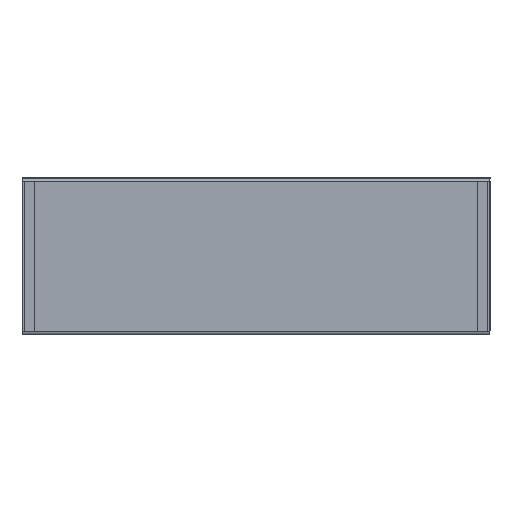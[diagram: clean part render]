
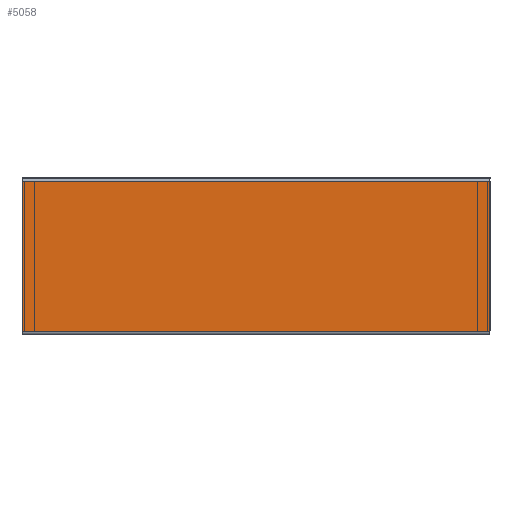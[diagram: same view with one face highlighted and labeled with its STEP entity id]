
A CAD part, left-side view. The second image highlights one B-rep face of the part: STEP entity #5058.
In plain terms, the highlighted planar face has unit normal (-1, 0, 0).
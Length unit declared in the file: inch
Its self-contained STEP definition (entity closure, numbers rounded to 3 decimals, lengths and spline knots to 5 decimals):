
#171 = CARTESIAN_POINT ( 'NONE',  ( -15., 15., 0.177 ) ) ;
#187 = DIRECTION ( 'NONE',  ( 0., 0., 1. ) ) ;
#188 = VECTOR ( 'NONE', #187, 39.37008 ) ;
#189 = CARTESIAN_POINT ( 'NONE',  ( -15., -15., 0. ) ) ;
#190 = LINE ( 'NONE', #189, #188 ) ;
#205 = CARTESIAN_POINT ( 'NONE',  ( -15., -15., 0.177 ) ) ;
#1306 = CARTESIAN_POINT ( 'NONE',  ( -15., -15., 9.823 ) ) ;
#1374 = DIRECTION ( 'NONE',  ( 0., 0., 1. ) ) ;
#1375 = VECTOR ( 'NONE', #1374, 39.37008 ) ;
#1376 = CARTESIAN_POINT ( 'NONE',  ( -15., 15., 0. ) ) ;
#1377 = LINE ( 'NONE', #1376, #1375 ) ;
#1590 = CARTESIAN_POINT ( 'NONE',  ( -15., 15., 9.823 ) ) ;
#3228 = CARTESIAN_POINT ( 'NONE',  ( -15., 15., 0.177 ) ) ;
#3229 = LINE ( 'NONE', #3228, #3347 ) ;
#3258 = DIRECTION ( 'NONE',  ( 0., -1., 0. ) ) ;
#3259 = VECTOR ( 'NONE', #3258, 39.37008 ) ;
#3260 = CARTESIAN_POINT ( 'NONE',  ( -15., 15., 9.823 ) ) ;
#3263 = LINE ( 'NONE', #3260, #3259 ) ;
#3333 = DIRECTION ( 'NONE',  ( 0., 0., -1. ) ) ;
#3335 = DIRECTION ( 'NONE',  ( 1., 0., 0. ) ) ;
#3336 = CARTESIAN_POINT ( 'NONE',  ( -15., 15., 0. ) ) ;
#3341 = AXIS2_PLACEMENT_3D ( 'NONE', #3336, #3335, #3333 ) ;
#3343 = PLANE ( 'NONE',  #3341 ) ;
#3344 = FACE_OUTER_BOUND ( 'NONE', #5091, .T. ) ;
#3346 = DIRECTION ( 'NONE',  ( 0., -1., 0. ) ) ;
#3347 = VECTOR ( 'NONE', #3346, 39.37008 ) ;
#4646 = VERTEX_POINT ( 'NONE', #171 ) ;
#4663 = EDGE_CURVE ( 'NONE', #4677, #4902, #190, .T. ) ;
#4677 = VERTEX_POINT ( 'NONE', #205 ) ;
#4679 = VERTEX_POINT ( 'NONE', #1590 ) ;
#4902 = VERTEX_POINT ( 'NONE', #1306 ) ;
#4931 = EDGE_CURVE ( 'NONE', #4646, #4679, #1377, .T. ) ;
#5055 = EDGE_CURVE ( 'NONE', #4646, #4677, #3229, .T. ) ;
#5058 = ADVANCED_FACE ( 'NONE', ( #3344 ), #3343, .F. ) ;
#5091 = EDGE_LOOP ( 'NONE', ( #5118, #5119, #5116, #5117 ) ) ;
#5108 = EDGE_CURVE ( 'NONE', #4679, #4902, #3263, .T. ) ;
#5116 = ORIENTED_EDGE ( 'NONE', *, *, #4931, .F. ) ;
#5117 = ORIENTED_EDGE ( 'NONE', *, *, #5055, .T. ) ;
#5118 = ORIENTED_EDGE ( 'NONE', *, *, #4663, .T. ) ;
#5119 = ORIENTED_EDGE ( 'NONE', *, *, #5108, .F. ) ;
